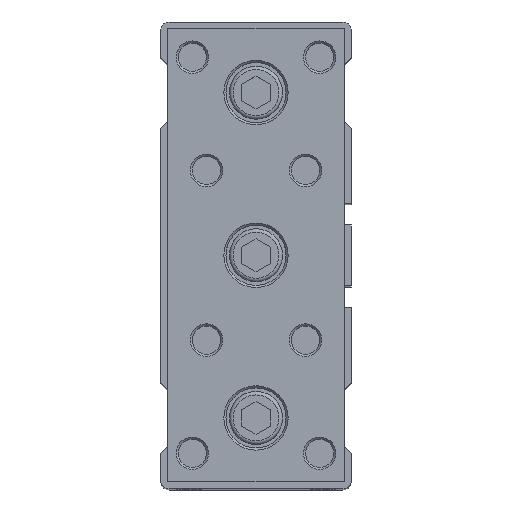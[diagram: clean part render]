
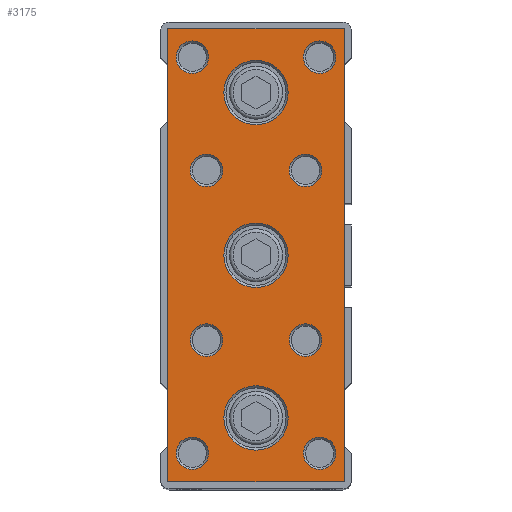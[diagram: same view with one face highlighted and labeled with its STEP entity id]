
A CAD part, top view. The second image highlights one B-rep face of the part: STEP entity #3175.
In plain terms, the highlighted planar face has unit normal (0, 0, 1).
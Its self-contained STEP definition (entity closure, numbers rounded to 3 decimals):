
#2818=CARTESIAN_POINT('',(12.5,32.0,12.));
#2819=VERTEX_POINT('',#2818);
#2820=CARTESIAN_POINT('',(12.5,-32.0,12.));
#2821=VERTEX_POINT('',#2820);
#2822=CARTESIAN_POINT('',(12.5,32.0,12.));
#2823=DIRECTION('',(0.0,-1.0,0.0));
#2824=VECTOR('',#2823,64.0);
#2825=LINE('',#2822,#2824);
#2826=EDGE_CURVE('',#2819,#2821,#2825,.T.);
#2952=CARTESIAN_POINT('',(-12.5,-32.0,12.));
#2953=VERTEX_POINT('',#2952);
#2954=CARTESIAN_POINT('',(-12.5,32.0,12.));
#2955=VERTEX_POINT('',#2954);
#2956=CARTESIAN_POINT('',(-12.5,-32.0,12.));
#2957=DIRECTION('',(0.0,1.0,0.0));
#2958=VECTOR('',#2957,64.0);
#2959=LINE('',#2956,#2958);
#2960=EDGE_CURVE('',#2953,#2955,#2959,.T.);
#3029=CARTESIAN_POINT('',(4.55,0.,12.));
#3030=VERTEX_POINT('',#3029);
#3031=CARTESIAN_POINT('',(0.0,0.0,12.));
#3032=DIRECTION('',(0.0,0.0,1.0));
#3033=DIRECTION('',(-1.0,0.0,0.0));
#3034=AXIS2_PLACEMENT_3D('',#3031,#3032,#3033);
#3035=CIRCLE('',#3034,4.55);
#3036=EDGE_CURVE('',#3030,#3030,#3035,.T.);
#3041=CARTESIAN_POINT('',(0.0,0.,12.));
#3042=DIRECTION('',(0.0,0.0,1.0));
#3043=DIRECTION('',(1.0,0.0,0.0));
#3044=AXIS2_PLACEMENT_3D('',#3041,#3042,#3043);
#3045=PLANE('',#3044);
#3046=ORIENTED_EDGE('',*,*,#2826,.F.);
#3047=CARTESIAN_POINT('',(-12.5,32.0,12.));
#3048=DIRECTION('',(1.0,0.0,0.0));
#3049=VECTOR('',#3048,25.0);
#3050=LINE('',#3047,#3049);
#3051=EDGE_CURVE('',#2955,#2819,#3050,.T.);
#3052=ORIENTED_EDGE('',*,*,#3051,.F.);
#3053=ORIENTED_EDGE('',*,*,#2960,.F.);
#3054=CARTESIAN_POINT('',(12.5,-32.0,12.));
#3055=DIRECTION('',(-1.0,0.0,0.0));
#3056=VECTOR('',#3055,25.0);
#3057=LINE('',#3054,#3056);
#3058=EDGE_CURVE('',#2821,#2953,#3057,.T.);
#3059=ORIENTED_EDGE('',*,*,#3058,.F.);
#3060=EDGE_LOOP('',(#3046,#3052,#3053,#3059));
#3061=FACE_OUTER_BOUND('',#3060,.T.);
#3062=CARTESIAN_POINT('',(4.55,-23.,12.));
#3063=VERTEX_POINT('',#3062);
#3064=CARTESIAN_POINT('',(0.0,-23.,12.));
#3065=DIRECTION('',(0.0,0.0,1.0));
#3066=DIRECTION('',(-1.0,0.0,0.0));
#3067=AXIS2_PLACEMENT_3D('',#3064,#3065,#3066);
#3068=CIRCLE('',#3067,4.55);
#3069=EDGE_CURVE('',#3063,#3063,#3068,.T.);
#3070=ORIENTED_EDGE('',*,*,#3069,.F.);
#3071=EDGE_LOOP('',(#3070));
#3072=FACE_BOUND('',#3071,.T.);
#3073=CARTESIAN_POINT('',(11.3,-28.,12.));
#3074=VERTEX_POINT('',#3073);
#3075=CARTESIAN_POINT('',(9.0,-28.,12.));
#3076=DIRECTION('',(0.0,0.0,1.0));
#3077=DIRECTION('',(-1.0,0.0,0.0));
#3078=AXIS2_PLACEMENT_3D('',#3075,#3076,#3077);
#3079=CIRCLE('',#3078,2.3);
#3080=EDGE_CURVE('',#3074,#3074,#3079,.T.);
#3081=ORIENTED_EDGE('',*,*,#3080,.F.);
#3082=EDGE_LOOP('',(#3081));
#3083=FACE_BOUND('',#3082,.T.);
#3084=CARTESIAN_POINT('',(11.3,28.,12.));
#3085=VERTEX_POINT('',#3084);
#3086=CARTESIAN_POINT('',(9.0,28.,12.));
#3087=DIRECTION('',(0.0,0.0,1.0));
#3088=DIRECTION('',(-1.0,0.0,0.0));
#3089=AXIS2_PLACEMENT_3D('',#3086,#3087,#3088);
#3090=CIRCLE('',#3089,2.3);
#3091=EDGE_CURVE('',#3085,#3085,#3090,.T.);
#3092=ORIENTED_EDGE('',*,*,#3091,.F.);
#3093=EDGE_LOOP('',(#3092));
#3094=FACE_BOUND('',#3093,.T.);
#3095=CARTESIAN_POINT('',(-6.7,-28.,12.));
#3096=VERTEX_POINT('',#3095);
#3097=CARTESIAN_POINT('',(-9.0,-28.,12.));
#3098=DIRECTION('',(0.0,0.0,1.0));
#3099=DIRECTION('',(-1.0,0.0,0.0));
#3100=AXIS2_PLACEMENT_3D('',#3097,#3098,#3099);
#3101=CIRCLE('',#3100,2.3);
#3102=EDGE_CURVE('',#3096,#3096,#3101,.T.);
#3103=ORIENTED_EDGE('',*,*,#3102,.F.);
#3104=EDGE_LOOP('',(#3103));
#3105=FACE_BOUND('',#3104,.T.);
#3106=CARTESIAN_POINT('',(-4.7,12.,12.));
#3107=VERTEX_POINT('',#3106);
#3108=CARTESIAN_POINT('',(-7.,12.,12.));
#3109=DIRECTION('',(0.0,0.0,1.0));
#3110=DIRECTION('',(-1.0,0.0,0.0));
#3111=AXIS2_PLACEMENT_3D('',#3108,#3109,#3110);
#3112=CIRCLE('',#3111,2.3);
#3113=EDGE_CURVE('',#3107,#3107,#3112,.T.);
#3114=ORIENTED_EDGE('',*,*,#3113,.F.);
#3115=EDGE_LOOP('',(#3114));
#3116=FACE_BOUND('',#3115,.T.);
#3117=CARTESIAN_POINT('',(-6.7,28.,12.));
#3118=VERTEX_POINT('',#3117);
#3119=CARTESIAN_POINT('',(-9.0,28.,12.));
#3120=DIRECTION('',(0.0,0.0,1.0));
#3121=DIRECTION('',(-1.0,0.0,0.0));
#3122=AXIS2_PLACEMENT_3D('',#3119,#3120,#3121);
#3123=CIRCLE('',#3122,2.3);
#3124=EDGE_CURVE('',#3118,#3118,#3123,.T.);
#3125=ORIENTED_EDGE('',*,*,#3124,.F.);
#3126=EDGE_LOOP('',(#3125));
#3127=FACE_BOUND('',#3126,.T.);
#3128=CARTESIAN_POINT('',(-4.7,-12.,12.));
#3129=VERTEX_POINT('',#3128);
#3130=CARTESIAN_POINT('',(-7.,-12.,12.));
#3131=DIRECTION('',(0.0,0.0,1.0));
#3132=DIRECTION('',(-1.0,0.0,0.0));
#3133=AXIS2_PLACEMENT_3D('',#3130,#3131,#3132);
#3134=CIRCLE('',#3133,2.3);
#3135=EDGE_CURVE('',#3129,#3129,#3134,.T.);
#3136=ORIENTED_EDGE('',*,*,#3135,.F.);
#3137=EDGE_LOOP('',(#3136));
#3138=FACE_BOUND('',#3137,.T.);
#3139=CARTESIAN_POINT('',(9.3,-12.,12.));
#3140=VERTEX_POINT('',#3139);
#3141=CARTESIAN_POINT('',(7.,-12.,12.));
#3142=DIRECTION('',(0.0,0.0,1.0));
#3143=DIRECTION('',(-1.0,0.0,0.0));
#3144=AXIS2_PLACEMENT_3D('',#3141,#3142,#3143);
#3145=CIRCLE('',#3144,2.3);
#3146=EDGE_CURVE('',#3140,#3140,#3145,.T.);
#3147=ORIENTED_EDGE('',*,*,#3146,.F.);
#3148=EDGE_LOOP('',(#3147));
#3149=FACE_BOUND('',#3148,.T.);
#3150=CARTESIAN_POINT('',(9.3,12.,12.));
#3151=VERTEX_POINT('',#3150);
#3152=CARTESIAN_POINT('',(7.,12.,12.));
#3153=DIRECTION('',(0.0,0.0,1.0));
#3154=DIRECTION('',(-1.0,0.0,0.0));
#3155=AXIS2_PLACEMENT_3D('',#3152,#3153,#3154);
#3156=CIRCLE('',#3155,2.3);
#3157=EDGE_CURVE('',#3151,#3151,#3156,.T.);
#3158=ORIENTED_EDGE('',*,*,#3157,.F.);
#3159=EDGE_LOOP('',(#3158));
#3160=FACE_BOUND('',#3159,.T.);
#3161=CARTESIAN_POINT('',(4.55,23.,12.));
#3162=VERTEX_POINT('',#3161);
#3163=CARTESIAN_POINT('',(0.0,23.,12.));
#3164=DIRECTION('',(0.0,0.0,1.0));
#3165=DIRECTION('',(-1.0,0.0,0.0));
#3166=AXIS2_PLACEMENT_3D('',#3163,#3164,#3165);
#3167=CIRCLE('',#3166,4.55);
#3168=EDGE_CURVE('',#3162,#3162,#3167,.T.);
#3169=ORIENTED_EDGE('',*,*,#3168,.F.);
#3170=EDGE_LOOP('',(#3169));
#3171=FACE_BOUND('',#3170,.T.);
#3172=ORIENTED_EDGE('',*,*,#3036,.F.);
#3173=EDGE_LOOP('',(#3172));
#3174=FACE_BOUND('',#3173,.T.);
#3175=ADVANCED_FACE('',(#3061,#3072,#3083,#3094,#3105,#3116,#3127,#3138,#3149,#3160,#3171,#3174),#3045,.T.);
